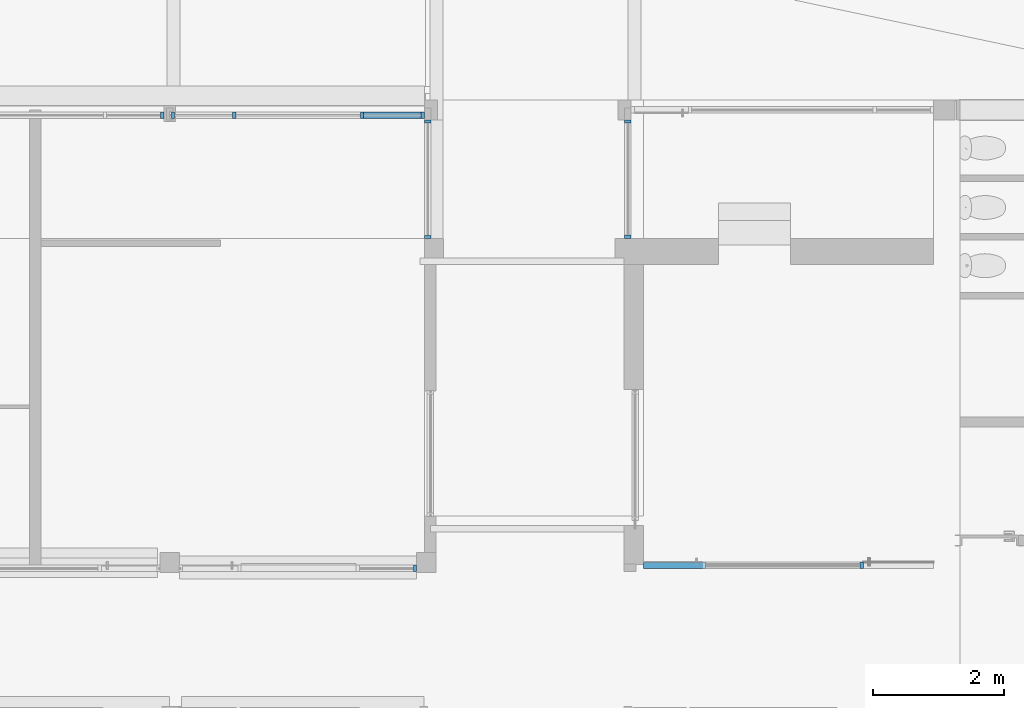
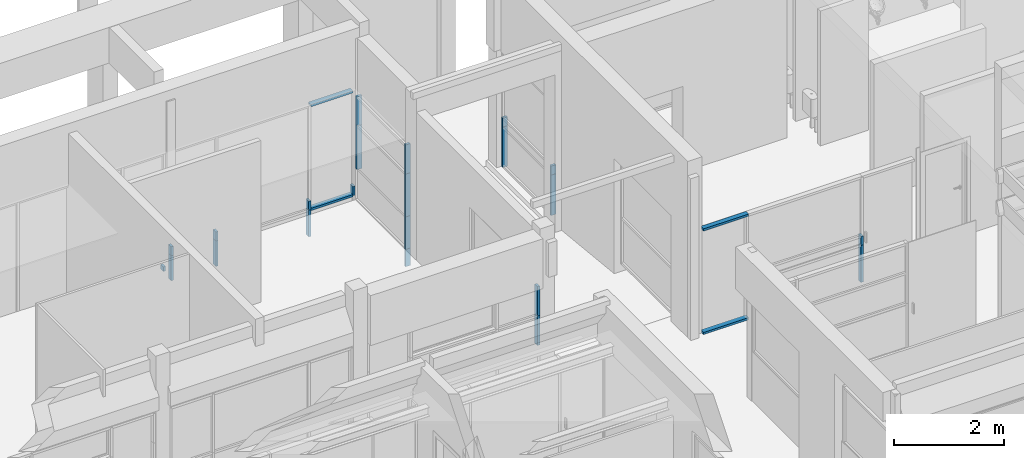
# One storey, part 26 of 117: 26 members, 6 elements without a shape of their own.
"""IFC4 building model written with IfcOpenShell, lengths in metres."""

from ifc_helpers import new_model, entity, si_unit, converted_unit, derived_unit, direction, frame, origin, place, context, subcontext, project, spatial, indexed_curve, outline, extrude, source, transform, mapped, material, type_object, type_shapes, element, aggregate, save


model = new_model("IFC4")

# Units and contexts
model_context = context("Model", 3, precision=1e-05, world=origin(), true_north=direction((6.123031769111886e-17, 1.0)))
body_context = subcontext(model_context, "Body", "Model", "MODEL_VIEW")
ifc_project = project(units=[si_unit("LENGTHUNIT", "METRE"), si_unit("AREAUNIT", "SQUARE_METRE"), si_unit("VOLUMEUNIT", "CUBIC_METRE"), converted_unit("PLANEANGLEUNIT", "DEGREE", entity("IfcRatioMeasure", 0.017453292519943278), si_unit("PLANEANGLEUNIT", "RADIAN"), dimensions=[0, 0, 0, 0, 0, 0, 0]), si_unit("MASSUNIT", "GRAM", prefix="KILO"), derived_unit("MASSDENSITYUNIT", [(si_unit("MASSUNIT", "GRAM", prefix="KILO"), 1), (si_unit("LENGTHUNIT", "METRE"), -3)]), derived_unit("MOMENTOFINERTIAUNIT", [(si_unit("LENGTHUNIT", "METRE"), 4)]), si_unit("TIMEUNIT", "SECOND"), si_unit("FREQUENCYUNIT", "HERTZ"), si_unit("THERMODYNAMICTEMPERATUREUNIT", "DEGREE_CELSIUS"), derived_unit("THERMALTRANSMITTANCEUNIT", [(si_unit("MASSUNIT", "GRAM", prefix="KILO"), 1), (si_unit("THERMODYNAMICTEMPERATUREUNIT", "KELVIN"), -1), (si_unit("TIMEUNIT", "SECOND"), -3)]), derived_unit("VOLUMETRICFLOWRATEUNIT", [(si_unit("LENGTHUNIT", "METRE"), 3), (si_unit("TIMEUNIT", "SECOND"), -1)]), derived_unit("MASSFLOWRATEUNIT", [(si_unit("MASSUNIT", "GRAM", prefix="KILO"), 1), (si_unit("TIMEUNIT", "SECOND"), -1)]), derived_unit("ROTATIONALFREQUENCYUNIT", [(si_unit("TIMEUNIT", "SECOND"), -1)]), si_unit("ELECTRICCURRENTUNIT", "AMPERE"), si_unit("ELECTRICVOLTAGEUNIT", "VOLT"), si_unit("POWERUNIT", "WATT"), si_unit("FORCEUNIT", "NEWTON", prefix="KILO"), si_unit("ILLUMINANCEUNIT", "LUX"), si_unit("LUMINOUSFLUXUNIT", "LUMEN"), si_unit("LUMINOUSINTENSITYUNIT", "CANDELA"), derived_unit("USERDEFINED", [(si_unit("MASSUNIT", "GRAM", prefix="KILO"), -1), (si_unit("LENGTHUNIT", "METRE"), -2), (si_unit("TIMEUNIT", "SECOND"), 3), (si_unit("LUMINOUSFLUXUNIT", "LUMEN"), 1)]), derived_unit("SOUNDPOWERUNIT", [(si_unit("MASSUNIT", "GRAM", prefix="KILO"), 1), (si_unit("LENGTHUNIT", "METRE"), 2), (si_unit("TIMEUNIT", "SECOND"), -3)]), derived_unit("SOUNDPRESSUREUNIT", [(si_unit("MASSUNIT", "GRAM", prefix="KILO"), 1), (si_unit("LENGTHUNIT", "METRE"), -1), (si_unit("TIMEUNIT", "SECOND"), -2)]), derived_unit("LINEARVELOCITYUNIT", [(si_unit("LENGTHUNIT", "METRE"), 1), (si_unit("TIMEUNIT", "SECOND"), -1)]), si_unit("PRESSUREUNIT", "PASCAL"), derived_unit("USERDEFINED", [(si_unit("LENGTHUNIT", "METRE"), -2), (si_unit("MASSUNIT", "GRAM", prefix="KILO"), 1), (si_unit("TIMEUNIT", "SECOND"), -2)]), derived_unit("LINEARFORCEUNIT", [(si_unit("MASSUNIT", "GRAM", prefix="KILO"), 1), (si_unit("LENGTHUNIT", "METRE"), 1), (si_unit("TIMEUNIT", "SECOND"), -2), (si_unit("LENGTHUNIT", "METRE"), -1)]), derived_unit("PLANARFORCEUNIT", [(si_unit("MASSUNIT", "GRAM", prefix="KILO"), 1), (si_unit("LENGTHUNIT", "METRE"), 1), (si_unit("TIMEUNIT", "SECOND"), -2), (si_unit("LENGTHUNIT", "METRE"), -2)])], contexts=[model_context])

# Site, building, storey
site_placement = place(None, origin())
site = spatial("IfcSite", under=ifc_project, at=site_placement, Name="Superficie", CompositionType="ELEMENT")
building_placement = place(site_placement, origin())
building = spatial("IfcBuilding", under=site, at=building_placement, CompositionType="ELEMENT")
storey_placement = place(building_placement, origin())
storey = spatial("IfcBuildingStorey", under=building, at=storey_placement, Name="Nivel 0", CompositionType="ELEMENT", Elevation=0.0)

# Curtain wall, members
curtain_wall_type = type_object("IfcCurtainWallType", Name="Muro cortina:Muro cortina - simple", PredefinedType="NOTDEFINED")
curtain_wall_1_placement = place(storey_placement, origin())
curtain_wall_1 = element("IfcCurtainWall", 1, at=curtain_wall_1_placement, inside=storey, type_object=curtain_wall_type, Name="Muro cortina:Muro cortina - simple", ObjectType="Muro cortina:Muro cortina - simple", PredefinedType="NOTDEFINED")
ifc_material = material(Name="<Unnamed>")
member_type_1 = type_object("IfcMemberType", Name="Montante rectangular:Montante rectangular - 5 x 10 cm", PredefinedType="MULLION", material=ifc_material)
shared_shape_1 = source(origin(), body_context, "Body", "SweptSolid", [
    extrude(outline(indexed_curve([(-0.05, -0.025), (0.05, -0.025), (0.05, 0.025), (-0.05, 0.025), (-0.05, -0.025)], self_intersect=False)), frame((-0.025, 0.0, -0.655), z_axis=(0.0, 0.0, 1.0), x_axis=(0.0, -1.0, 0.0)), (0.0, 0.0, 1.0), 0.655),
])
type_shapes(member_type_1, [shared_shape_1])
member_1_placement = place(curtain_wall_1_placement, frame((12.671799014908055, 5.716739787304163, 1.6749999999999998), z_axis=(0.0, 0.0, -1.0), x_axis=(1.0, 0.0, 0.0)))
member_1 = element("IfcMember", 2, at=member_1_placement, type_object=member_type_1, material=ifc_material, Name="Montante rectangular:Montante rectangular - 5 x 10 cm", ObjectType="Montante rectangular:Montante rectangular - 5 x 10 cm", PredefinedType="MULLION", context=body_context, shape_type="MappedRepresentation", body=[
    mapped(shared_shape_1, transform((0.0, 0.0, 0.0), scale=1.0)),
])
member_type_2 = type_object("IfcMemberType", Name="Montante rectangular:Montante rectangular - 5 x 10 cm", PredefinedType="MULLION", material=ifc_material)
shared_shape_2 = source(origin(), body_context, "Body", "SweptSolid", [
    extrude(outline(indexed_curve([(-0.05, -0.025), (0.05, -0.025), (0.05, 0.025), (-0.05, 0.025), (-0.05, -0.025)], self_intersect=False)), frame((-0.025, 0.0, -0.655), z_axis=(0.0, 0.0, 1.0), x_axis=(0.0, -1.0, 0.0)), (0.0, 0.0, 1.0), 0.655),
])
type_shapes(member_type_2, [shared_shape_2])
member_2_placement = place(curtain_wall_1_placement, frame((12.671799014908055, 5.716739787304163, 1.0199999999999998), z_axis=(0.0, 0.0, -1.0), x_axis=(1.0, 0.0, 0.0)))
member_2 = element("IfcMember", 3, at=member_2_placement, type_object=member_type_2, material=ifc_material, Name="Montante rectangular:Montante rectangular - 5 x 10 cm", ObjectType="Montante rectangular:Montante rectangular - 5 x 10 cm", PredefinedType="MULLION", context=body_context, shape_type="MappedRepresentation", body=[
    mapped(shared_shape_2, transform((0.0, 0.0, 0.0), scale=1.0)),
])
aggregate(curtain_wall_1, [member_1, member_2])

curtain_wall_2_placement = place(storey_placement, origin())
curtain_wall_2 = element("IfcCurtainWall", 4, at=curtain_wall_2_placement, inside=storey, type_object=curtain_wall_type, Name="Muro cortina:Muro cortina - simple", ObjectType="Muro cortina:Muro cortina - simple", PredefinedType="NOTDEFINED")
member_type_3 = type_object("IfcMemberType", Name="Montante rectangular:Montante rectangular - 5 x 10 cm", PredefinedType="MULLION", material=ifc_material)
shared_shape_3 = source(origin(), body_context, "Body", "SweptSolid", [
    extrude(outline(indexed_curve([(-0.05, -0.025), (0.05, -0.025), (0.05, 0.025), (-0.05, 0.025), (-0.05, -0.025)], self_intersect=False)), frame((-0.025, 0.0, -0.9499999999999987), z_axis=(0.0, 0.0, 1.0), x_axis=(0.0, -1.0, 0.0)), (0.0, 0.0, 1.0), 0.9499999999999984),
])
type_shapes(member_type_3, [shared_shape_3])
member_3_placement = place(curtain_wall_2_placement, frame((17.096799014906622, 5.76673978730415, 2.35), z_axis=(1.0, 0.0, 0.0), x_axis=(0.0, 0.0, 1.0)))
member_3 = element("IfcMember", 5, at=member_3_placement, type_object=member_type_3, material=ifc_material, Name="Montante rectangular:Montante rectangular - 5 x 10 cm", ObjectType="Montante rectangular:Montante rectangular - 5 x 10 cm", PredefinedType="MULLION", context=body_context, shape_type="MappedRepresentation", body=[
    mapped(shared_shape_3, transform((0.0, 0.0, 0.0), scale=1.0)),
])
member_type_4 = type_object("IfcMemberType", Name="Montante rectangular:Montante rectangular - 5 x 10 cm", PredefinedType="MULLION", material=ifc_material)
shared_shape_4 = source(origin(), body_context, "Body", "SweptSolid", [
    extrude(outline(indexed_curve([(-0.05, -0.025), (0.05, -0.025), (0.05, 0.025), (-0.05, 0.025), (-0.05, -0.025)], self_intersect=False)), frame((0.0, 0.0, -0.9499999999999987), z_axis=(0.0, 0.0, 1.0), x_axis=(0.0, -1.0, 0.0)), (0.0, 0.0, 1.0), 0.9499999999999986),
])
type_shapes(member_type_4, [shared_shape_4])
member_4_placement = place(curtain_wall_2_placement, frame((17.096799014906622, 5.76673978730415, 0.019999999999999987), z_axis=(1.0, 0.0, 0.0), x_axis=(0.0, 0.0, 1.0)))
member_4 = element("IfcMember", 6, at=member_4_placement, type_object=member_type_4, material=ifc_material, Name="Montante rectangular:Montante rectangular - 5 x 10 cm", ObjectType="Montante rectangular:Montante rectangular - 5 x 10 cm", PredefinedType="MULLION", context=body_context, shape_type="MappedRepresentation", body=[
    mapped(shared_shape_4, transform((0.0, 0.0, 0.0), scale=1.0)),
])
member_type_5 = type_object("IfcMemberType", Name="Montante rectangular:Montante rectangular - 5 x 10 cm", PredefinedType="MULLION", material=ifc_material)
shared_shape_5 = source(origin(), body_context, "Body", "SweptSolid", [
    extrude(outline(indexed_curve([(-0.05, -0.025), (0.05, -0.025), (0.05, 0.025), (-0.05, 0.025), (-0.05, -0.025)], self_intersect=False)), frame((0.0, 0.0, -0.8250000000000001), z_axis=(0.0, 0.0, 1.0), x_axis=(0.0, -1.0, 0.0)), (0.0, 0.0, 1.0), 0.8250000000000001),
])
type_shapes(member_type_5, [shared_shape_5])
member_5_placement = place(curtain_wall_2_placement, frame((19.486799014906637, 5.766739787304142, -0.005000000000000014), z_axis=(0.0, 0.0, -1.0), x_axis=(1.0, 0.0, 0.0)))
member_5 = element("IfcMember", 7, at=member_5_placement, type_object=member_type_5, material=ifc_material, Name="Montante rectangular:Montante rectangular - 5 x 10 cm", ObjectType="Montante rectangular:Montante rectangular - 5 x 10 cm", PredefinedType="MULLION", context=body_context, shape_type="MappedRepresentation", body=[
    mapped(shared_shape_5, transform((0.0, 0.0, 0.0), scale=1.0)),
])
member_type_6 = type_object("IfcMemberType", Name="Montante rectangular:Montante rectangular - 5 x 10 cm", PredefinedType="MULLION", material=ifc_material)
shared_shape_6 = source(origin(), body_context, "Body", "SweptSolid", [
    extrude(outline(indexed_curve([(-0.05, -0.025), (0.05, -0.025), (0.05, 0.025), (-0.05, 0.025), (-0.05, -0.025)], self_intersect=False)), frame((0.0, 0.0, -0.19999999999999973), z_axis=(0.0, 0.0, 1.0), x_axis=(0.0, -1.0, 0.0)), (0.0, 0.0, 1.0), 0.19999999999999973),
])
type_shapes(member_type_6, [shared_shape_6])
member_6_placement = place(curtain_wall_2_placement, frame((19.486799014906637, 5.766739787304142, 0.8200000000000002), z_axis=(0.0, 0.0, -1.0), x_axis=(1.0, 0.0, 0.0)))
member_6 = element("IfcMember", 8, at=member_6_placement, type_object=member_type_6, material=ifc_material, Name="Montante rectangular:Montante rectangular - 5 x 10 cm", ObjectType="Montante rectangular:Montante rectangular - 5 x 10 cm", PredefinedType="MULLION", context=body_context, shape_type="MappedRepresentation", body=[
    mapped(shared_shape_6, transform((0.0, 0.0, 0.0), scale=1.0)),
])
aggregate(curtain_wall_2, [member_3, member_4, member_5, member_6])

# Curtain wall, member
curtain_wall_3_placement = place(storey_placement, origin())
curtain_wall_3 = element("IfcCurtainWall", 9, at=curtain_wall_3_placement, inside=storey, type_object=curtain_wall_type, Name="Muro cortina:Muro cortina - simple", ObjectType="Muro cortina:Muro cortina - simple", PredefinedType="NOTDEFINED")
member_type_7 = type_object("IfcMemberType", Name="Montante rectangular:Montante rectangular - 5 x 10 cm", PredefinedType="MULLION", material=ifc_material)
shared_shape_7 = source(origin(), body_context, "Body", "SweptSolid", [
    extrude(outline(indexed_curve([(-0.05, -0.025), (0.05, -0.025), (0.05, 0.025), (-0.05, 0.025), (-0.05, -0.025)], self_intersect=False)), frame((-0.025, 0.0, -0.2), z_axis=(0.0, 0.0, 1.0), x_axis=(0.0, -1.0, 0.0)), (0.0, 0.0, 1.0), 0.2),
])
type_shapes(member_type_7, [shared_shape_7])
member_7_placement = place(curtain_wall_3_placement, frame((15.906001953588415, 10.770829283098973, 0.5824), z_axis=(0.0, 0.0, -1.0), x_axis=(0.0, -1.0, 0.0)))
member_7 = element("IfcMember", 10, at=member_7_placement, type_object=member_type_7, material=ifc_material, Name="Montante rectangular:Montante rectangular - 5 x 10 cm", ObjectType="Montante rectangular:Montante rectangular - 5 x 10 cm", PredefinedType="MULLION", context=body_context, shape_type="MappedRepresentation", body=[
    mapped(shared_shape_7, transform((0.0, 0.0, 0.0), scale=1.0)),
])

# Curtain wall, members
curtain_wall_4_placement = place(storey_placement, origin())
curtain_wall_4 = element("IfcCurtainWall", 11, at=curtain_wall_4_placement, inside=storey, type_object=curtain_wall_type, Name="Muro cortina:Muro cortina - simple", ObjectType="Muro cortina:Muro cortina - simple", PredefinedType="NOTDEFINED")
member_type_8 = type_object("IfcMemberType", Name="Montante rectangular:Montante rectangular - 5 x 10 cm", PredefinedType="MULLION", material=ifc_material)
shared_shape_8 = source(origin(), body_context, "Body", "SweptSolid", [
    extrude(outline(indexed_curve([(-0.05, -0.025), (0.05, -0.025), (0.05, 0.025), (-0.05, 0.025), (-0.05, -0.025)], self_intersect=False)), frame((0.0, 0.0, -0.65), z_axis=(0.0, 0.0, 1.0), x_axis=(0.0, -1.0, 0.0)), (0.0, 0.0, 1.0), 0.65),
])
type_shapes(member_type_8, [shared_shape_8])
member_8_placement = place(curtain_wall_4_placement, frame((12.840568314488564, 10.790829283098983, 1.6799999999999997), z_axis=(0.0, 0.0, -1.0), x_axis=(0.0, 1.0, 0.0)))
member_8 = element("IfcMember", 12, at=member_8_placement, type_object=member_type_8, material=ifc_material, Name="Montante rectangular:Montante rectangular - 5 x 10 cm", ObjectType="Montante rectangular:Montante rectangular - 5 x 10 cm", PredefinedType="MULLION", context=body_context, shape_type="MappedRepresentation", body=[
    mapped(shared_shape_8, transform((0.0, 0.0, 0.0), scale=1.0)),
])
member_type_9 = type_object("IfcMemberType", Name="Montante rectangular:Montante rectangular - 5 x 10 cm", PredefinedType="MULLION", material=ifc_material)
shared_shape_9 = source(origin(), body_context, "Body", "SweptSolid", [
    extrude(outline(indexed_curve([(-0.05, -0.025), (0.05, -0.025), (0.05, 0.025), (-0.05, 0.025), (-0.05, -0.025)], self_intersect=False)), frame((-0.025, 0.0, -0.65), z_axis=(0.0, 0.0, 1.0), x_axis=(0.0, -1.0, 0.0)), (0.0, 0.0, 1.0), 0.65),
])
type_shapes(member_type_9, [shared_shape_9])
member_9_placement = place(curtain_wall_4_placement, frame((12.840568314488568, 12.584548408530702, 1.6799999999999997), z_axis=(0.0, 0.0, -1.0), x_axis=(0.0, 1.0, 0.0)))
member_9 = element("IfcMember", 13, at=member_9_placement, type_object=member_type_9, material=ifc_material, Name="Montante rectangular:Montante rectangular - 5 x 10 cm", ObjectType="Montante rectangular:Montante rectangular - 5 x 10 cm", PredefinedType="MULLION", context=body_context, shape_type="MappedRepresentation", body=[
    mapped(shared_shape_9, transform((0.0, 0.0, 0.0), scale=1.0)),
])
member_type_10 = type_object("IfcMemberType", Name="Montante rectangular:Montante rectangular - 5 x 10 cm", PredefinedType="MULLION", material=ifc_material)
shared_shape_10 = source(origin(), body_context, "Body", "SweptSolid", [
    extrude(outline(indexed_curve([(-0.05, -0.025), (0.05, -0.025), (0.05, 0.025), (-0.05, 0.025), (-0.05, -0.025)], self_intersect=False)), frame((0.0, 0.0, -0.95), z_axis=(0.0, 0.0, 1.0), x_axis=(0.0, -1.0, 0.0)), (0.0, 0.0, 1.0), 0.95),
])
type_shapes(member_type_10, [shared_shape_10])
member_10_placement = place(curtain_wall_4_placement, frame((12.840568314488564, 10.790829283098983, 0.7299999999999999), z_axis=(0.0, 0.0, -1.0), x_axis=(0.0, 1.0, 0.0)))
member_10 = element("IfcMember", 14, at=member_10_placement, type_object=member_type_10, material=ifc_material, Name="Montante rectangular:Montante rectangular - 5 x 10 cm", ObjectType="Montante rectangular:Montante rectangular - 5 x 10 cm", PredefinedType="MULLION", context=body_context, shape_type="MappedRepresentation", body=[
    mapped(shared_shape_10, transform((0.0, 0.0, 0.0), scale=1.0)),
])
member_type_11 = type_object("IfcMemberType", Name="Montante rectangular:Montante rectangular - 5 x 10 cm", PredefinedType="MULLION", material=ifc_material)
shared_shape_11 = source(origin(), body_context, "Body", "SweptSolid", [
    extrude(outline(indexed_curve([(-0.05, -0.025), (0.05, -0.025), (0.05, 0.025), (-0.05, 0.025), (-0.05, -0.025)], self_intersect=False)), frame((-0.025, 0.0, -0.975), z_axis=(0.0, 0.0, 1.0), x_axis=(0.0, -1.0, 0.0)), (0.0, 0.0, 1.0), 0.975),
])
type_shapes(member_type_11, [shared_shape_11])
member_11_placement = place(curtain_wall_4_placement, frame((12.840568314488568, 12.584548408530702, 0.7049999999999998), z_axis=(0.0, 0.0, -1.0), x_axis=(0.0, 1.0, 0.0)))
member_11 = element("IfcMember", 15, at=member_11_placement, type_object=member_type_11, material=ifc_material, Name="Montante rectangular:Montante rectangular - 5 x 10 cm", ObjectType="Montante rectangular:Montante rectangular - 5 x 10 cm", PredefinedType="MULLION", context=body_context, shape_type="MappedRepresentation", body=[
    mapped(shared_shape_11, transform((0.0, 0.0, 0.0), scale=1.0)),
])
member_type_12 = type_object("IfcMemberType", Name="Montante rectangular:Montante rectangular - 5 x 10 cm", PredefinedType="MULLION", material=ifc_material)
shared_shape_12 = source(origin(), body_context, "Body", "SweptSolid", [
    extrude(outline(indexed_curve([(-0.05, -0.025), (0.05, -0.025), (0.05, 0.025), (-0.05, 0.025), (-0.05, -0.025)], self_intersect=False)), frame((0.0, 0.0, -0.3838670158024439), z_axis=(0.0, 0.0, 1.0), x_axis=(0.0, -1.0, 0.0)), (0.0, 0.0, 1.0), 0.3838670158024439),
])
type_shapes(member_type_12, [shared_shape_12])
member_12_placement = place(curtain_wall_4_placement, frame((12.840568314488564, 10.790829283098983, -0.37998733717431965), z_axis=(0.0, 0.0, -1.0), x_axis=(0.0, 1.0, 0.0)))
member_12 = element("IfcMember", 16, at=member_12_placement, type_object=member_type_12, material=ifc_material, Name="Montante rectangular:Montante rectangular - 5 x 10 cm", ObjectType="Montante rectangular:Montante rectangular - 5 x 10 cm", PredefinedType="MULLION", context=body_context, shape_type="MappedRepresentation", body=[
    mapped(shared_shape_12, transform((0.0, 0.0, 0.0), scale=1.0)),
])
member_type_13 = type_object("IfcMemberType", Name="Montante rectangular:Montante rectangular - 5 x 10 cm", PredefinedType="MULLION", material=ifc_material)
shared_shape_13 = source(origin(), body_context, "Body", "SweptSolid", [
    extrude(outline(indexed_curve([(-0.05, -0.025), (0.05, -0.025), (0.05, 0.025), (-0.05, 0.025), (-0.05, -0.025)], self_intersect=False)), frame((0.0, 0.0, -0.7261203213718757), z_axis=(0.0, 0.0, 1.0), x_axis=(0.0, -1.0, 0.0)), (0.0, 0.0, 1.0), 0.7261203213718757),
])
type_shapes(member_type_13, [shared_shape_13])
member_13_placement = place(curtain_wall_4_placement, frame((12.840568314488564, 10.790829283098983, 0.0038796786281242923), z_axis=(0.0, 0.0, -1.0), x_axis=(0.0, 1.0, 0.0)))
member_13 = element("IfcMember", 17, at=member_13_placement, type_object=member_type_13, material=ifc_material, Name="Montante rectangular:Montante rectangular - 5 x 10 cm", ObjectType="Montante rectangular:Montante rectangular - 5 x 10 cm", PredefinedType="MULLION", context=body_context, shape_type="MappedRepresentation", body=[
    mapped(shared_shape_13, transform((0.0, 0.0, 0.0), scale=1.0)),
])
aggregate(curtain_wall_4, [member_8, member_9, member_10, member_11, member_12, member_13])

curtain_wall_5_placement = place(storey_placement, origin())
curtain_wall_5 = element("IfcCurtainWall", 18, at=curtain_wall_5_placement, inside=storey, type_object=curtain_wall_type, Name="Muro cortina:Muro cortina - simple", ObjectType="Muro cortina:Muro cortina - simple", PredefinedType="NOTDEFINED")
member_type_14 = type_object("IfcMemberType", Name="Montante rectangular:Montante rectangular - 5 x 10 cm", PredefinedType="MULLION", material=ifc_material)
shared_shape_14 = source(origin(), body_context, "Body", "SweptSolid", [
    extrude(outline(indexed_curve([(-0.05, -0.025), (0.05, -0.025), (0.05, 0.025), (-0.05, 0.025), (-0.05, -0.025)], self_intersect=False)), frame((0.0, 0.0, -0.2), z_axis=(0.0, 0.0, 1.0), x_axis=(0.0, -1.0, 0.0)), (0.0, 0.0, 1.0), 0.2),
])
type_shapes(member_type_14, [shared_shape_14])
member_14_placement = place(curtain_wall_5_placement, frame((11.83556831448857, 12.654548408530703, 0.10429380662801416), z_axis=(0.0, 0.0, -1.0), x_axis=(-1.0, 0.0, 0.0)))
member_14 = element("IfcMember", 19, at=member_14_placement, type_object=member_type_14, material=ifc_material, Name="Montante rectangular:Montante rectangular - 5 x 10 cm", ObjectType="Montante rectangular:Montante rectangular - 5 x 10 cm", PredefinedType="MULLION", context=body_context, shape_type="MappedRepresentation", body=[
    mapped(shared_shape_14, transform((0.0, 0.0, 0.0), scale=1.0)),
])
member_15_placement = place(curtain_wall_5_placement, frame((9.881552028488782, 12.654548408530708, 0.10429380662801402), z_axis=(0.0, 0.0, -1.0), x_axis=(-1.0, 0.0, 0.0)))
member_15 = element("IfcMember", 20, at=member_15_placement, type_object=member_type_14, material=ifc_material, Name="Montante rectangular:Montante rectangular - 5 x 10 cm", ObjectType="Montante rectangular:Montante rectangular - 5 x 10 cm", PredefinedType="MULLION", context=body_context, shape_type="MappedRepresentation", body=[
    mapped(shared_shape_14, transform((0.0, 0.0, 0.0), scale=1.0)),
])
member_16_placement = place(curtain_wall_5_placement, frame((8.941552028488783, 12.654548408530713, 0.10429380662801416), z_axis=(0.0, 0.0, -1.0), x_axis=(-1.0, 0.0, 0.0)))
member_16 = element("IfcMember", 21, at=member_16_placement, type_object=member_type_14, material=ifc_material, Name="Montante rectangular:Montante rectangular - 5 x 10 cm", ObjectType="Montante rectangular:Montante rectangular - 5 x 10 cm", PredefinedType="MULLION", context=body_context, shape_type="MappedRepresentation", body=[
    mapped(shared_shape_14, transform((0.0, 0.0, 0.0), scale=1.0)),
])
member_type_15 = type_object("IfcMemberType", Name="Montante rectangular:Montante rectangular - 5 x 10 cm", PredefinedType="MULLION", material=ifc_material)
shared_shape_15 = source(origin(), body_context, "Body", "SweptSolid", [
    extrude(outline(indexed_curve([(-0.05, -0.025), (0.05, -0.025), (0.05, 0.025), (-0.05, 0.025), (-0.05, -0.025)], self_intersect=False)), frame((0.0, 0.0, -0.879999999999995), z_axis=(0.0, 0.0, 1.0), x_axis=(0.0, -1.0, 0.0)), (0.0, 0.0, 1.0), 0.8799999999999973),
])
type_shapes(member_type_15, [shared_shape_15])
member_17_placement = place(curtain_wall_5_placement, frame((11.860568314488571, 12.654548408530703, 0.10429380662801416), z_axis=(-1.0, 0.0, 0.0), x_axis=(0.0, 0.0, 1.0)))
member_17 = element("IfcMember", 22, at=member_17_placement, type_object=member_type_15, material=ifc_material, Name="Montante rectangular:Montante rectangular - 5 x 10 cm", ObjectType="Montante rectangular:Montante rectangular - 5 x 10 cm", PredefinedType="MULLION", context=body_context, shape_type="MappedRepresentation", body=[
    mapped(shared_shape_15, transform((0.0, 0.0, 0.0), scale=1.0)),
])
member_type_16 = type_object("IfcMemberType", Name="Montante rectangular:Montante rectangular - 5 x 10 cm", PredefinedType="MULLION", material=ifc_material)
shared_shape_16 = source(origin(), body_context, "Body", "SweptSolid", [
    extrude(outline(indexed_curve([(-0.05, -0.025), (0.05, -0.025), (0.05, 0.025), (-0.05, 0.025), (-0.05, -0.025)], self_intersect=False)), frame((0.0, 0.0, -0.5936491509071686), z_axis=(0.0, 0.0, 1.0), x_axis=(0.0, -1.0, 0.0)), (0.0, 0.0, 1.0), 0.5936491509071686),
])
type_shapes(member_type_16, [shared_shape_16])
member_18_placement = place(curtain_wall_5_placement, frame((11.83556831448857, 12.654548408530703, -0.48935534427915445), z_axis=(0.0, 0.0, -1.0), x_axis=(-1.0, 0.0, 0.0)))
member_18 = element("IfcMember", 23, at=member_18_placement, type_object=member_type_16, material=ifc_material, Name="Montante rectangular:Montante rectangular - 5 x 10 cm", ObjectType="Montante rectangular:Montante rectangular - 5 x 10 cm", PredefinedType="MULLION", context=body_context, shape_type="MappedRepresentation", body=[
    mapped(shared_shape_16, transform((0.0, 0.0, 0.0), scale=1.0)),
])
member_type_17 = type_object("IfcMemberType", Name="Montante rectangular:Montante rectangular - 5 x 10 cm", PredefinedType="MULLION", material=ifc_material)
shared_shape_17 = source(origin(), body_context, "Body", "SweptSolid", [
    extrude(outline(indexed_curve([(-0.05, -0.025), (0.05, -0.025), (0.05, 0.025), (-0.05, 0.025), (-0.05, -0.025)], self_intersect=False)), frame((0.0, 0.0, -0.5668162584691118), z_axis=(0.0, 0.0, 1.0), x_axis=(0.0, -1.0, 0.0)), (0.0, 0.0, 1.0), 0.5668162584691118),
])
type_shapes(member_type_17, [shared_shape_17])
member_19_placement = place(curtain_wall_5_placement, frame((9.881552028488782, 12.654548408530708, -0.46252245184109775), z_axis=(0.0, 0.0, -1.0), x_axis=(-1.0, 0.0, 0.0)))
member_19 = element("IfcMember", 24, at=member_19_placement, type_object=member_type_17, material=ifc_material, Name="Montante rectangular:Montante rectangular - 5 x 10 cm", ObjectType="Montante rectangular:Montante rectangular - 5 x 10 cm", PredefinedType="MULLION", context=body_context, shape_type="MappedRepresentation", body=[
    mapped(shared_shape_17, transform((0.0, 0.0, 0.0), scale=1.0)),
])
member_type_18 = type_object("IfcMemberType", Name="Montante rectangular:Montante rectangular - 5 x 10 cm", PredefinedType="MULLION", material=ifc_material)
shared_shape_18 = source(origin(), body_context, "Body", "SweptSolid", [
    extrude(outline(indexed_curve([(-0.05, -0.025), (0.05, -0.025), (0.05, 0.025), (-0.05, 0.025), (-0.05, -0.025)], self_intersect=False)), frame((-0.025, 0.0, -0.8799999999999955), z_axis=(0.0, 0.0, 1.0), x_axis=(0.0, -1.0, 0.0)), (0.0, 0.0, 1.0), 0.879999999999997),
])
type_shapes(member_type_18, [shared_shape_18])
member_20_placement = place(curtain_wall_5_placement, frame((11.860568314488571, 12.654548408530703, 2.44), z_axis=(-1.0, 0.0, 0.0), x_axis=(0.0, 0.0, 1.0)))
member_20 = element("IfcMember", 25, at=member_20_placement, type_object=member_type_18, material=ifc_material, Name="Montante rectangular:Montante rectangular - 5 x 10 cm", ObjectType="Montante rectangular:Montante rectangular - 5 x 10 cm", PredefinedType="MULLION", context=body_context, shape_type="MappedRepresentation", body=[
    mapped(shared_shape_18, transform((0.0, 0.0, 0.0), scale=1.0)),
])
member_type_19 = type_object("IfcMemberType", Name="Montante rectangular:Montante rectangular - 5 x 10 cm", PredefinedType="MULLION", material=ifc_material)
shared_shape_19 = source(origin(), body_context, "Body", "SweptSolid", [
    extrude(outline(indexed_curve([(-0.05, -0.025), (0.05, -0.025), (0.05, 0.025), (-0.05, 0.025), (-0.05, -0.025)], self_intersect=False)), frame((-0.025, 0.0, -0.2), z_axis=(0.0, 0.0, 1.0), x_axis=(0.0, -1.0, 0.0)), (0.0, 0.0, 1.0), 0.2),
])
type_shapes(member_type_19, [shared_shape_19])
member_21_placement = place(curtain_wall_5_placement, frame((12.790568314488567, 12.6545484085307, 0.30429380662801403)))
member_21 = element("IfcMember", 26, at=member_21_placement, type_object=member_type_19, material=ifc_material, Name="Montante rectangular:Montante rectangular - 5 x 10 cm", ObjectType="Montante rectangular:Montante rectangular - 5 x 10 cm", PredefinedType="MULLION", context=body_context, shape_type="MappedRepresentation", body=[
    mapped(shared_shape_19, transform((0.0, 0.0, 0.0), scale=1.0)),
])
member_type_20 = type_object("IfcMemberType", Name="Montante rectangular:Montante rectangular - 5 x 10 cm", PredefinedType="MULLION", material=ifc_material)
shared_shape_20 = source(origin(), body_context, "Body", "SweptSolid", [
    extrude(outline(indexed_curve([(-0.05, -0.025), (0.05, -0.025), (0.05, 0.025), (-0.05, 0.025), (-0.05, -0.025)], self_intersect=False)), frame((0.0, 0.0, -0.5539080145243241), z_axis=(0.0, 0.0, 1.0), x_axis=(0.0, -1.0, 0.0)), (0.0, 0.0, 1.0), 0.5539080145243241),
])
type_shapes(member_type_20, [shared_shape_20])
member_22_placement = place(curtain_wall_5_placement, frame((8.941552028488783, 12.654548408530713, -0.44961420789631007), z_axis=(0.0, 0.0, -1.0), x_axis=(-1.0, 0.0, 0.0)))
member_22 = element("IfcMember", 27, at=member_22_placement, type_object=member_type_20, material=ifc_material, Name="Montante rectangular:Montante rectangular - 5 x 10 cm", ObjectType="Montante rectangular:Montante rectangular - 5 x 10 cm", PredefinedType="MULLION", context=body_context, shape_type="MappedRepresentation", body=[
    mapped(shared_shape_20, transform((0.0, 0.0, 0.0), scale=1.0)),
])
aggregate(curtain_wall_5, [member_14, member_15, member_17, member_18, member_19, member_20, member_21, member_16, member_22])

# Member
member_type_21 = type_object("IfcMemberType", Name="Montante rectangular:Montante rectangular - 5 x 10 cm", PredefinedType="MULLION", material=ifc_material)
shared_shape_21 = source(origin(), body_context, "Body", "SweptSolid", [
    extrude(outline(indexed_curve([(-0.05, -0.025), (0.05, -0.025), (0.05, 0.025), (-0.05, 0.025), (-0.05, -0.025)], self_intersect=False)), frame((-0.025, 0.0, -0.2), z_axis=(0.0, 0.0, 1.0), x_axis=(0.0, -1.0, 0.0)), (0.0, 0.0, 1.0), 0.2),
])
type_shapes(member_type_21, [shared_shape_21])
member_23_placement = place(curtain_wall_3_placement, frame((15.90600195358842, 12.584548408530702, 0.7824), z_axis=(0.0, 0.0, 1.0), x_axis=(0.0, 1.0, 0.0)))
member_23 = element("IfcMember", 28, at=member_23_placement, type_object=member_type_21, material=ifc_material, Name="Montante rectangular:Montante rectangular - 5 x 10 cm", ObjectType="Montante rectangular:Montante rectangular - 5 x 10 cm", PredefinedType="MULLION", context=body_context, shape_type="MappedRepresentation", body=[
    mapped(shared_shape_21, transform((0.0, 0.0, 0.0), scale=1.0)),
])

# Curtain wall, member
curtain_wall_6_placement = place(storey_placement, origin())
curtain_wall_6 = element("IfcCurtainWall", 29, at=curtain_wall_6_placement, inside=storey, type_object=curtain_wall_type, Name="Muro cortina:Muro cortina - simple", ObjectType="Muro cortina:Muro cortina - simple", PredefinedType="NOTDEFINED")
member_type_22 = type_object("IfcMemberType", Name="Montante rectangular:Montante rectangular - 5 x 10 cm", PredefinedType="MULLION", material=ifc_material)
shared_shape_22 = source(origin(), body_context, "Body", "SweptSolid", [
    extrude(outline(indexed_curve([(-0.05, -0.025), (0.05, -0.025), (0.05, 0.025), (-0.05, 0.025), (-0.05, -0.025)], self_intersect=False)), frame((-0.025, 0.0, -0.10097316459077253), z_axis=(0.0, 0.0, 1.0), x_axis=(0.0, -1.0, 0.0)), (0.0, 0.0, 1.0), 0.10097316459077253),
])
type_shapes(member_type_22, [shared_shape_22])
member_24_placement = place(curtain_wall_6_placement, frame((8.801552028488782, 12.654548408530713, -0.08647709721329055)))
member_24 = element("IfcMember", 30, at=member_24_placement, type_object=member_type_22, material=ifc_material, Name="Montante rectangular:Montante rectangular - 5 x 10 cm", ObjectType="Montante rectangular:Montante rectangular - 5 x 10 cm", PredefinedType="MULLION", context=body_context, shape_type="MappedRepresentation", body=[
    mapped(shared_shape_22, transform((0.0, 0.0, 0.0), scale=1.0)),
])
aggregate(curtain_wall_6, [member_24])

# Member
member_type_23 = type_object("IfcMemberType", Name="Montante rectangular:Montante rectangular - 5 x 10 cm", PredefinedType="MULLION", material=ifc_material)
shared_shape_23 = source(origin(), body_context, "Body", "SweptSolid", [
    extrude(outline(indexed_curve([(-0.05, -0.025), (0.05, -0.025), (0.05, 0.025), (-0.05, 0.025), (-0.05, -0.025)], self_intersect=False)), frame((-0.025, 0.0, -0.8999999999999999), z_axis=(0.0, 0.0, 1.0), x_axis=(0.0, -1.0, 0.0)), (0.0, 0.0, 1.0), 0.8999999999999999),
])
type_shapes(member_type_23, [shared_shape_23])
member_25_placement = place(curtain_wall_3_placement, frame((15.906001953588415, 10.770829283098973, -0.31759999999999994), z_axis=(0.0, 0.0, -1.0), x_axis=(0.0, -1.0, 0.0)))
member_25 = element("IfcMember", 31, at=member_25_placement, type_object=member_type_23, material=ifc_material, Name="Montante rectangular:Montante rectangular - 5 x 10 cm", ObjectType="Montante rectangular:Montante rectangular - 5 x 10 cm", PredefinedType="MULLION", context=body_context, shape_type="MappedRepresentation", body=[
    mapped(shared_shape_23, transform((0.0, 0.0, 0.0), scale=1.0)),
])

member_type_24 = type_object("IfcMemberType", Name="Montante rectangular:Montante rectangular - 5 x 10 cm", PredefinedType="MULLION", material=ifc_material)
shared_shape_24 = source(origin(), body_context, "Body", "SweptSolid", [
    extrude(outline(indexed_curve([(-0.05, -0.025), (0.05, -0.025), (0.05, 0.025), (-0.05, 0.025), (-0.05, -0.025)], self_intersect=False)), frame((-0.025, 0.0, -0.8999999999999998), z_axis=(0.0, 0.0, 1.0), x_axis=(0.0, -1.0, 0.0)), (0.0, 0.0, 1.0), 0.8999999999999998),
])
type_shapes(member_type_24, [shared_shape_24])
member_26_placement = place(curtain_wall_3_placement, frame((15.90600195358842, 12.584548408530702, 0.5824), z_axis=(0.0, 0.0, 1.0), x_axis=(0.0, 1.0, 0.0)))
member_26 = element("IfcMember", 32, at=member_26_placement, type_object=member_type_24, material=ifc_material, Name="Montante rectangular:Montante rectangular - 5 x 10 cm", ObjectType="Montante rectangular:Montante rectangular - 5 x 10 cm", PredefinedType="MULLION", context=body_context, shape_type="MappedRepresentation", body=[
    mapped(shared_shape_24, transform((0.0, 0.0, 0.0), scale=1.0)),
])

aggregate(curtain_wall_3, [member_7, member_25, member_23, member_26])

save(model, "model.ifc")
